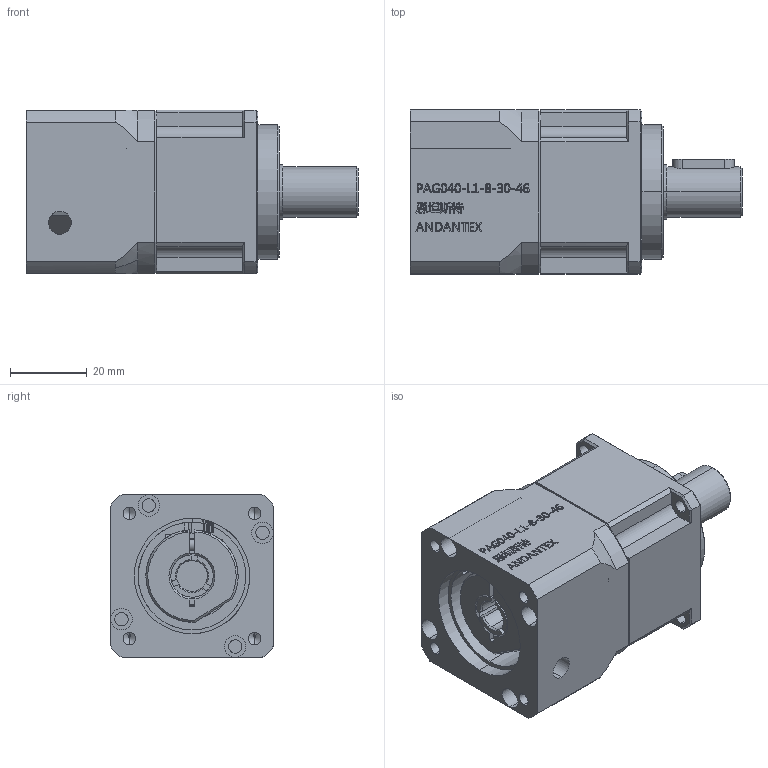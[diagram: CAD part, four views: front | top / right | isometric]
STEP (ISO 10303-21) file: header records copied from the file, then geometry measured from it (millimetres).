
FILE_DESCRIPTION (( 'STEP AP203' ), '1' );
FILE_NAME ('PAG040-L1-8-30-46.STEP', '2022-07-18T07:05:40', ( 'Windows User' ), ( 'P R C' ), 'SwSTEP 2.0', 'SolidWorks 2016', '' );
FILE_SCHEMA (( 'CONFIG_CONTROL_DESIGN' ));
Length unit declared in the file: millimetre
Products named in the file (8): PAG040-CQ01（本体齿圈); 旮僱⑩粣創61902-2Z; PAG040-WZ01(帣釱)_1123; 5X5X16; PAG040-L1-8-30-46; PAG040-CLZ05(喘謫粣); PAG040-SJH(坶踡遠); M3x12
Assembly tree (7 placements, depth 2):
  PAG040-L1-8-30-46
    PAG040-CQ01（本体齿圈)
    PAG040-WZ01(帣釱)_1123
    PAG040-CLZ05(喘謫粣)
    PAG040-SJH(坶踡遠)
    M3x12
    旮僱⑩粣創61902-2Z
    5X5X16
Bounding box: 86.3 x 42.6 x 42.6 mm (x, y, z)
Volume: 97459.1 mm3; surface area: 35380.4 mm2
Topology: 23 solids, 23 shells, 1220 faces, 3506 edges, 2315 vertices
Faces by surface type: plane 632, bspline 223, cylinder 182, sphere 86, cone 51, torus 46
Entity records: 52252 total; most frequent: CARTESIAN_POINT 20961, ORIENTED_EDGE 6992, DIRECTION 5389, EDGE_CURVE 3496, VERTEX_POINT 2315, VECTOR 1803, LINE 1803, AXIS2_PLACEMENT_3D 1793
